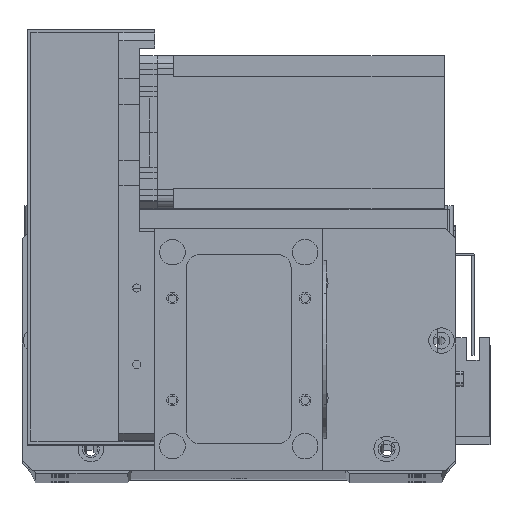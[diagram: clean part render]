
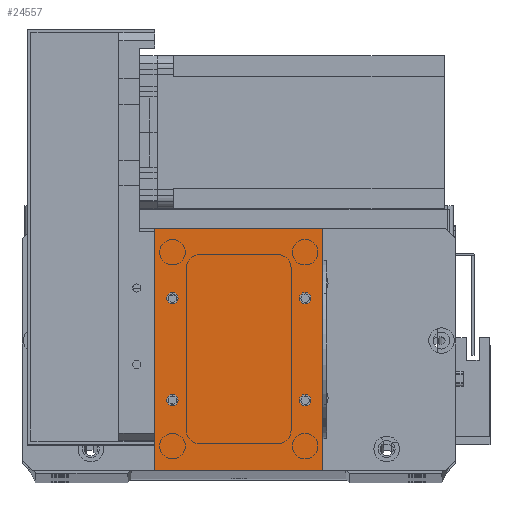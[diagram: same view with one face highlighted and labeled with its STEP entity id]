
A CAD part, top view. The second image highlights one B-rep face of the part: STEP entity #24557.
In plain terms, the highlighted planar face has unit normal (0, 0, 1).
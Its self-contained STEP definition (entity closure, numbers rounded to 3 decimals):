
#59 = CIRCLE ( 'NONE', #11684, 2.25 ) ;
#71 = CIRCLE ( 'NONE', #15002, 2.25 ) ;
#378 = CARTESIAN_POINT ( 'NONE',  ( 7., 67.5, 2. ) ) ;
#598 = VERTEX_POINT ( 'NONE', #21154 ) ;
#658 = DIRECTION ( 'NONE',  ( 0., 0., 1. ) ) ;
#790 = CARTESIAN_POINT ( 'NONE',  ( 59., 67.5, 2. ) ) ;
#891 = DIRECTION ( 'NONE',  ( 0., 0., -1. ) ) ;
#1261 = AXIS2_PLACEMENT_3D ( 'NONE', #11100, #891, #18825 ) ;
#1680 = CARTESIAN_POINT ( 'NONE',  ( 59., 27.5, 2. ) ) ;
#2233 = ORIENTED_EDGE ( 'NONE', *, *, #8416, .T. ) ;
#2341 = VERTEX_POINT ( 'NONE', #25659 ) ;
#2698 = VERTEX_POINT ( 'NONE', #6549 ) ;
#2953 = VERTEX_POINT ( 'NONE', #12699 ) ;
#2962 = DIRECTION ( 'NONE',  ( 1., 0., 0. ) ) ;
#3392 = DIRECTION ( 'NONE',  ( 1., 0., 0. ) ) ;
#3726 = CIRCLE ( 'NONE', #21625, 2.25 ) ;
#3825 = DIRECTION ( 'NONE',  ( -1., 0., 0. ) ) ;
#4061 = FACE_BOUND ( 'NONE', #25988, .T. ) ;
#4205 = ORIENTED_EDGE ( 'NONE', *, *, #17562, .T. ) ;
#4272 = DIRECTION ( 'NONE',  ( 1., 0., 0. ) ) ;
#4319 = EDGE_LOOP ( 'NONE', ( #28463, #19107 ) ) ;
#4664 = EDGE_CURVE ( 'NONE', #2953, #598, #15813, .T. ) ;
#4876 = CIRCLE ( 'NONE', #24232, 2.25 ) ;
#5671 = EDGE_CURVE ( 'NONE', #598, #2953, #3726, .T. ) ;
#6194 = EDGE_CURVE ( 'NONE', #2341, #15371, #15716, .T. ) ;
#6549 = CARTESIAN_POINT ( 'NONE',  ( 66., 0., 2. ) ) ;
#6648 = VERTEX_POINT ( 'NONE', #8654 ) ;
#6854 = CARTESIAN_POINT ( 'NONE',  ( 4.75, 27.5, 2. ) ) ;
#7515 = ORIENTED_EDGE ( 'NONE', *, *, #31076, .F. ) ;
#8385 = CARTESIAN_POINT ( 'NONE',  ( 66., 95., 2. ) ) ;
#8416 = EDGE_CURVE ( 'NONE', #27852, #2341, #21176, .T. ) ;
#8610 = EDGE_CURVE ( 'NONE', #2698, #27852, #16367, .T. ) ;
#8654 = CARTESIAN_POINT ( 'NONE',  ( 61.25, 27.5, 2. ) ) ;
#8739 = AXIS2_PLACEMENT_3D ( 'NONE', #14839, #32836, #17413 ) ;
#8868 = CARTESIAN_POINT ( 'NONE',  ( 0., 95., 2. ) ) ;
#9390 = DIRECTION ( 'NONE',  ( 0., 0., 1. ) ) ;
#9597 = ORIENTED_EDGE ( 'NONE', *, *, #6194, .T. ) ;
#10429 = DIRECTION ( 'NONE',  ( 0., -1., 0. ) ) ;
#10725 = CARTESIAN_POINT ( 'NONE',  ( 59., 27.5, 2. ) ) ;
#11100 = CARTESIAN_POINT ( 'NONE',  ( 0., 0., 2. ) ) ;
#11503 = VERTEX_POINT ( 'NONE', #16573 ) ;
#11661 = DIRECTION ( 'NONE',  ( 0., 0., 1. ) ) ;
#11671 = FACE_BOUND ( 'NONE', #14340, .T. ) ;
#11684 = AXIS2_PLACEMENT_3D ( 'NONE', #1680, #19592, #4272 ) ;
#11925 = EDGE_CURVE ( 'NONE', #30495, #6648, #71, .T. ) ;
#12179 = CIRCLE ( 'NONE', #18312, 2.25 ) ;
#12306 = ORIENTED_EDGE ( 'NONE', *, *, #4664, .F. ) ;
#12550 = DIRECTION ( 'NONE',  ( 0., 1., 0. ) ) ;
#12643 = CARTESIAN_POINT ( 'NONE',  ( 56.75, 27.5, 2. ) ) ;
#12699 = CARTESIAN_POINT ( 'NONE',  ( 4.75, 67.5, 2. ) ) ;
#12922 = VERTEX_POINT ( 'NONE', #6854 ) ;
#13087 = EDGE_LOOP ( 'NONE', ( #23721, #32283 ) ) ;
#13312 = DIRECTION ( 'NONE',  ( 1., 0., 0. ) ) ;
#14340 = EDGE_LOOP ( 'NONE', ( #18603, #12306 ) ) ;
#14624 = CARTESIAN_POINT ( 'NONE',  ( 9.25, 27.5, 2. ) ) ;
#14839 = CARTESIAN_POINT ( 'NONE',  ( 59., 67.5, 2. ) ) ;
#15002 = AXIS2_PLACEMENT_3D ( 'NONE', #10725, #28683, #13312 ) ;
#15371 = VERTEX_POINT ( 'NONE', #26899 ) ;
#15716 = LINE ( 'NONE', #25805, #28579 ) ;
#15813 = CIRCLE ( 'NONE', #29382, 2.25 ) ;
#16013 = CARTESIAN_POINT ( 'NONE',  ( 7., 27.5, 2. ) ) ;
#16367 = LINE ( 'NONE', #20261, #21553 ) ;
#16573 = CARTESIAN_POINT ( 'NONE',  ( 56.75, 67.5, 2. ) ) ;
#17413 = DIRECTION ( 'NONE',  ( 1., 0., 0. ) ) ;
#17562 = EDGE_CURVE ( 'NONE', #15371, #2698, #32317, .T. ) ;
#17726 = DIRECTION ( 'NONE',  ( 1., 0., 0. ) ) ;
#18292 = DIRECTION ( 'NONE',  ( 0., 0., 1. ) ) ;
#18312 = AXIS2_PLACEMENT_3D ( 'NONE', #16013, #658, #18574 ) ;
#18363 = EDGE_CURVE ( 'NONE', #12922, #32673, #12179, .T. ) ;
#18493 = FACE_BOUND ( 'NONE', #13087, .T. ) ;
#18574 = DIRECTION ( 'NONE',  ( 1., 0., 0. ) ) ;
#18603 = ORIENTED_EDGE ( 'NONE', *, *, #5671, .F. ) ;
#18641 = VECTOR ( 'NONE', #17726, 1000. ) ;
#18716 = DIRECTION ( 'NONE',  ( 0., 0., 1. ) ) ;
#18825 = DIRECTION ( 'NONE',  ( -1., 0., 0. ) ) ;
#19107 = ORIENTED_EDGE ( 'NONE', *, *, #18363, .F. ) ;
#19592 = DIRECTION ( 'NONE',  ( 0., 0., 1. ) ) ;
#19670 = EDGE_CURVE ( 'NONE', #6648, #30495, #59, .T. ) ;
#20001 = VERTEX_POINT ( 'NONE', #26574 ) ;
#20149 = AXIS2_PLACEMENT_3D ( 'NONE', #24772, #9390, #27341 ) ;
#20261 = CARTESIAN_POINT ( 'NONE',  ( 66., 0., 2. ) ) ;
#21154 = CARTESIAN_POINT ( 'NONE',  ( 9.25, 67.5, 2. ) ) ;
#21176 = LINE ( 'NONE', #8868, #27207 ) ;
#21553 = VECTOR ( 'NONE', #12550, 1000. ) ;
#21625 = AXIS2_PLACEMENT_3D ( 'NONE', #378, #18292, #2962 ) ;
#22073 = ORIENTED_EDGE ( 'NONE', *, *, #24520, .F. ) ;
#22109 = EDGE_LOOP ( 'NONE', ( #9597, #4205, #23777, #2233 ) ) ;
#23721 = ORIENTED_EDGE ( 'NONE', *, *, #19670, .F. ) ;
#23777 = ORIENTED_EDGE ( 'NONE', *, *, #8610, .T. ) ;
#24232 = AXIS2_PLACEMENT_3D ( 'NONE', #790, #18716, #3392 ) ;
#24520 = EDGE_CURVE ( 'NONE', #11503, #20001, #4876, .T. ) ;
#24523 = FACE_BOUND ( 'NONE', #4319, .T. ) ;
#24557 = ADVANCED_FACE ( 'NONE', ( #11671, #4061, #18493, #24523, #30571 ), #29062, .F. ) ;
#24702 = EDGE_CURVE ( 'NONE', #32673, #12922, #25741, .T. ) ;
#24772 = CARTESIAN_POINT ( 'NONE',  ( 7., 27.5, 2. ) ) ;
#25659 = CARTESIAN_POINT ( 'NONE',  ( 0., 95., 2. ) ) ;
#25741 = CIRCLE ( 'NONE', #20149, 2.25 ) ;
#25805 = CARTESIAN_POINT ( 'NONE',  ( 0., 0., 2. ) ) ;
#25988 = EDGE_LOOP ( 'NONE', ( #7515, #22073 ) ) ;
#26574 = CARTESIAN_POINT ( 'NONE',  ( 61.25, 67.5, 2. ) ) ;
#26899 = CARTESIAN_POINT ( 'NONE',  ( 0., 0., 2. ) ) ;
#27040 = CARTESIAN_POINT ( 'NONE',  ( 7., 67.5, 2. ) ) ;
#27207 = VECTOR ( 'NONE', #3825, 1000. ) ;
#27341 = DIRECTION ( 'NONE',  ( 1., 0., 0. ) ) ;
#27852 = VERTEX_POINT ( 'NONE', #8385 ) ;
#28463 = ORIENTED_EDGE ( 'NONE', *, *, #24702, .F. ) ;
#28579 = VECTOR ( 'NONE', #10429, 1000. ) ;
#28683 = DIRECTION ( 'NONE',  ( 0., 0., 1. ) ) ;
#29062 = PLANE ( 'NONE',  #1261 ) ;
#29382 = AXIS2_PLACEMENT_3D ( 'NONE', #27040, #11661, #29630 ) ;
#29630 = DIRECTION ( 'NONE',  ( 1., 0., 0. ) ) ;
#30495 = VERTEX_POINT ( 'NONE', #12643 ) ;
#30557 = CARTESIAN_POINT ( 'NONE',  ( 0., 0., 2. ) ) ;
#30571 = FACE_OUTER_BOUND ( 'NONE', #22109, .T. ) ;
#31076 = EDGE_CURVE ( 'NONE', #20001, #11503, #32034, .T. ) ;
#32034 = CIRCLE ( 'NONE', #8739, 2.25 ) ;
#32283 = ORIENTED_EDGE ( 'NONE', *, *, #11925, .F. ) ;
#32317 = LINE ( 'NONE', #30557, #18641 ) ;
#32673 = VERTEX_POINT ( 'NONE', #14624 ) ;
#32836 = DIRECTION ( 'NONE',  ( 0., 0., 1. ) ) ;
